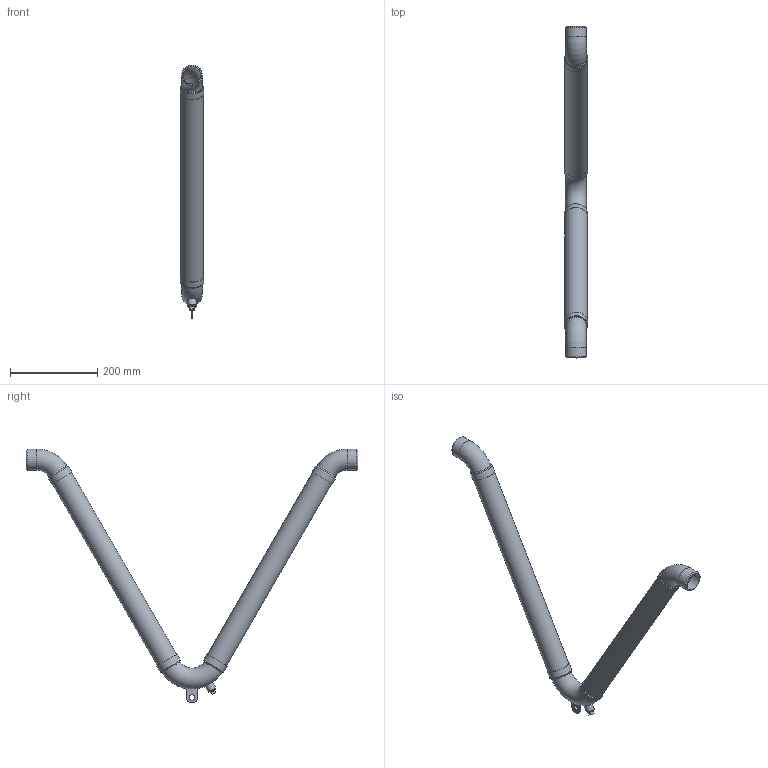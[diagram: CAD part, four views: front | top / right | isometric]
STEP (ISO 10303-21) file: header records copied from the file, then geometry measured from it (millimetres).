
FILE_DESCRIPTION(/* description */ (''),/* implementation_level */ '2;1');
FILE_NAME(/* name */ 'C:\001_Work\Designs\CSAVWN\CSAVWN-1.5x30.stp',/* time_stamp */ '2016-06-02T08:15:33-04:00',/* author */ ('rramoutar'),/* organization */ ('Mason Industries Inc.'),/* preprocessor_version */ 'ST-DEVELOPER v15.6',/* originating_system */ 'Autodesk Inventor 2015',/* authorisation */ '');
FILE_SCHEMA (('CONFIG_CONTROL_DESIGN'));
Length unit declared in the file: inch
Products named in the file (1): CSAVWN-1.5x30
Bounding box: 53.85 x 762 x 582.93 mm (x, y, z)
Volume: 227963.4 mm3; surface area: 448356.6 mm2
Topology: 14 solids, 14 shells, 83 faces, 165 edges, 109 vertices
Faces by surface type: plane 40, cylinder 27, cone 10, torus 6
Full cylindrical faces by diameter (mm): 11.112 x1, 12.7 x1, 13.716 x2, 19.05 x2, 40.894 x2, 48.26 x6, 50.8 x2, 51.511 x6, 53.892 x4
Entity records: 2046 total; most frequent: CARTESIAN_POINT 383, DIRECTION 336, ORIENTED_EDGE 216, AXIS2_PLACEMENT_3D 157, EDGE_LOOP 152, EDGE_CURVE 108, VERTEX_POINT 94, STYLED_ITEM 84
